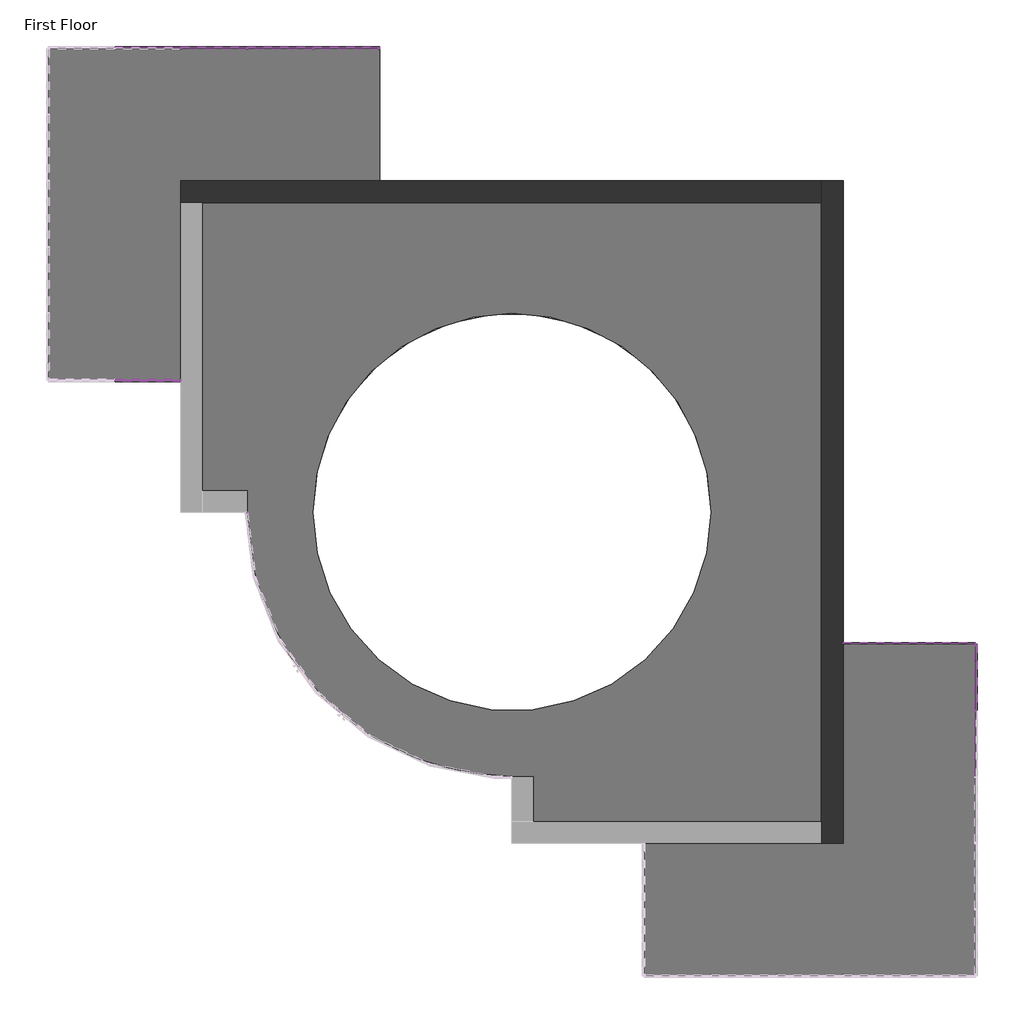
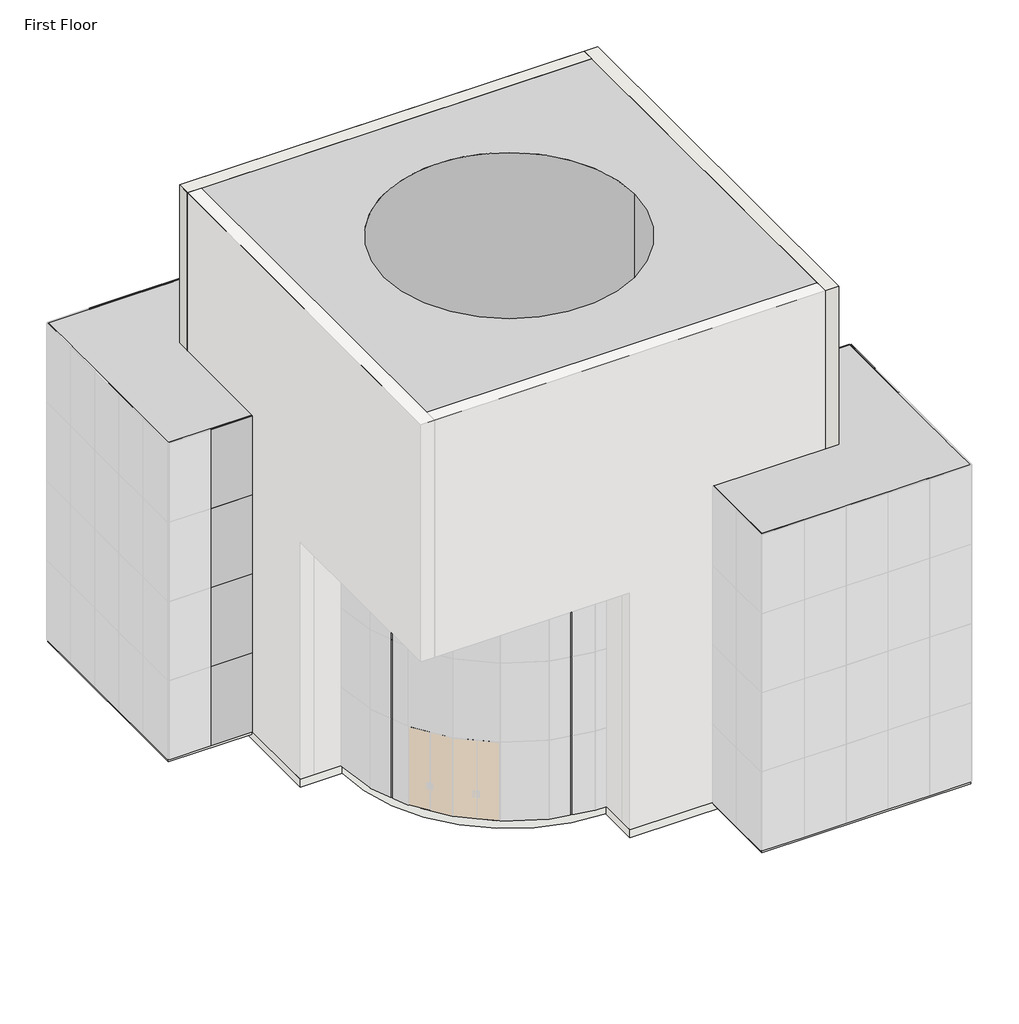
# One storey, part 4 of 4: 58 members, 32 plates, 2 proxies, 2 slabs, 2 walls.
"""IFC4 building model written with IfcOpenShell, lengths in millimetres."""

import ifcopenshell
import ifcopenshell.guid

model = None  # the IFC model being written
_history = None  # IfcOwnerHistory: only IFC2X3 demands one
_inside = {}  # id of a spatial element -> (the spatial element, [elements in it])
_under = {}  # id of a project, library or spatial element -> (it, [spatial elements below it])
_declared = {}  # id of a project -> (the project, [libraries it declares])
_typed = {}  # id of a type object -> (the type object, [elements of that type])
_made_of = {}  # id of a material, layer set ... -> (it, [elements and type objects made of it])


def new_model(schema):
    """Start an empty IFC model of exactly this schema.

    Asked for "IFC4X3", IfcOpenShell would pick the latest addendum, in which some entities
    have other attributes; the version numbers below select the first issue.
    IFC2X3 requires an IfcOwnerHistory on every rooted entity: one is made here for all.
    """
    global model, _history
    if schema == "IFC4X3":
        model = ifcopenshell.file(schema_version=(4, 3, 0, 0))
    else:
        model = ifcopenshell.file(schema=schema)
    _inside.clear()
    _under.clear()
    _declared.clear()
    _typed.clear()
    _made_of.clear()
    _history = None
    if model.schema == "IFC2X3":
        org = make("IfcOrganization", Name="unknown")
        user = make(
            "IfcPersonAndOrganization",
            ThePerson=make("IfcPerson", FamilyName="unknown"),
            TheOrganization=org,
        )
        app = make(
            "IfcApplication",
            ApplicationDeveloper=org,
            Version="unknown",
            ApplicationFullName="unknown",
            ApplicationIdentifier="unknown",
        )
        _history = make(
            "IfcOwnerHistory",
            OwningUser=user,
            OwningApplication=app,
            ChangeAction="ADDED",
            CreationDate=0,
        )
    return model


def make(cls, **values):
    """One entity of the class cls with the attributes given. An attribute that is None is left unset."""
    return model.create_entity(
        cls, **{name: value for name, value in values.items() if value is not None}
    )


def rooted(cls, **values):
    """An entity with a GlobalId (a new one), such as an element, a storey or a relation."""
    return make(cls, GlobalId=ifcopenshell.guid.new(), OwnerHistory=_history, **values)


def si_unit(unit_type, name, prefix=None):
    """IfcSIUnit, for example si_unit("LENGTHUNIT", "METRE", prefix="MILLI")."""
    return make("IfcSIUnit", UnitType=unit_type, Prefix=prefix, Name=name)


def assignment(units):
    """IfcUnitAssignment: the units of a project."""
    return None if units is None else make("IfcUnitAssignment", Units=units)


def point(xyz):
    """IfcCartesianPoint."""
    return None if xyz is None else make("IfcCartesianPoint", Coordinates=xyz)


def direction(xyz):
    """IfcDirection."""
    return None if xyz is None else make("IfcDirection", DirectionRatios=xyz)


def frame(location, z_axis=None, x_axis=None):
    """IfcAxis2Placement3D, a coordinate frame: its origin and axes. An axis left out is left unset."""
    return make(
        "IfcAxis2Placement3D",
        Location=point(location),
        Axis=direction(z_axis),
        RefDirection=direction(x_axis),
    )


def frame_2d(location, x_axis=None):
    """IfcAxis2Placement2D, a coordinate frame in the plane: its origin and x axis."""
    return make(
        "IfcAxis2Placement2D", Location=point(location), RefDirection=direction(x_axis)
    )


def origin():
    """The frame at (0, 0, 0) with its axes left unset."""
    return frame((0.0, 0.0, 0.0))


def origin_with_axes():
    """The frame at (0, 0, 0) with the z axis (0, 0, 1) and the x axis (1, 0, 0) written out."""
    return frame((0.0, 0.0, 0.0), z_axis=(0.0, 0.0, 1.0), x_axis=(1.0, 0.0, 0.0))


def place(relative_to, where):
    """IfcLocalPlacement: puts the frame where relative to a parent placement (None: the world)."""
    return make(
        "IfcLocalPlacement", PlacementRelTo=relative_to, RelativePlacement=where
    )


def context(
    kind, dimensions, precision=None, world=None, true_north=None, identifier=None
):
    """IfcGeometricRepresentationContext, for example the 3D "Model" context."""
    return make(
        "IfcGeometricRepresentationContext",
        ContextIdentifier=identifier,
        ContextType=kind,
        CoordinateSpaceDimension=dimensions,
        Precision=precision,
        WorldCoordinateSystem=world,
        TrueNorth=true_north,
    )


def project(units=None, contexts=None):
    """IfcProject with its units and contexts."""
    return rooted(
        "IfcProject",
        Name="project",
        RepresentationContexts=contexts,
        UnitsInContext=assignment(units),
    )


def spatial(cls, under=None, at=None, **own):
    """A site, building, storey or space (cls), placed at a placement, below another one or the project."""
    s = rooted(cls, ObjectPlacement=at, **own)
    if under is not None:
        _under.setdefault(under.id(), (under, []))[1].append(s)
    return s


def polyline(points):
    """IfcPolyline through the points."""
    return make("IfcPolyline", Points=[point(p) for p in points])


def circle_curve(where, radius):
    """IfcCircle in the frame where."""
    return make("IfcCircle", Position=where, Radius=radius)


def trimmed(basis, trim1, trim2, sense, master):
    """IfcTrimmedCurve: the piece of a basis curve between two trims."""
    return make(
        "IfcTrimmedCurve",
        BasisCurve=basis,
        Trim1=trim1,
        Trim2=trim2,
        SenseAgreement=sense,
        MasterRepresentation=master,
    )


def segment(curve, same_sense, transition):
    """IfcCompositeCurveSegment."""
    return make(
        "IfcCompositeCurveSegment",
        Transition=transition,
        SameSense=same_sense,
        ParentCurve=curve,
    )


def composite_curve(segments, self_intersect=None):
    """IfcCompositeCurve: segments joined end to end."""
    return make("IfcCompositeCurve", Segments=segments, SelfIntersect=self_intersect)


def outline(outer, holes=None, kind="AREA"):
    """IfcArbitraryClosedProfileDef: a profile drawn as a closed curve; with holes, ...WithVoids."""
    if holes is None:
        return make("IfcArbitraryClosedProfileDef", ProfileType=kind, OuterCurve=outer)
    return make(
        "IfcArbitraryProfileDefWithVoids",
        ProfileType=kind,
        OuterCurve=outer,
        InnerCurves=holes,
    )


def extrude(swept, where, along, depth):
    """IfcExtrudedAreaSolid: the profile swept, set in the frame where, extruded along a direction by depth."""
    return make(
        "IfcExtrudedAreaSolid",
        SweptArea=swept,
        Position=where,
        ExtrudedDirection=direction(along),
        Depth=depth,
    )


def faces_of(points, faces, orient=None, outer=None):
    """IfcFace entities. A face is a list of loops; a loop is a list of indices into points, from 0.

    orient and outer hold one flag for each loop. By default every Orientation is true, the
    first loop of a face is its IfcFaceOuterBound and the others are IfcFaceBound.
    """
    made = []
    for i, loops in enumerate(faces):
        bounds = []
        for j, loop in enumerate(loops):
            is_outer = j == 0 if outer is None else outer[i][j]
            bounds.append(
                make(
                    "IfcFaceOuterBound" if is_outer else "IfcFaceBound",
                    Bound=make("IfcPolyLoop", Polygon=[points[k] for k in loop]),
                    Orientation=True if orient is None else orient[i][j],
                )
            )
        made.append(make("IfcFace", Bounds=bounds))
    return made


def faceted_brep(points, faces, orient=None, outer=None, voids=None):
    """IfcFacetedBrep: a solid bounded by flat faces; with voids (closed shells), ...WithVoids."""
    shared = [point(p) for p in points]
    hull = make("IfcClosedShell", CfsFaces=faces_of(shared, faces, orient, outer))
    if voids is None:
        return make("IfcFacetedBrep", Outer=hull)
    return make(
        "IfcFacetedBrepWithVoids",
        Outer=hull,
        Voids=[
            make(cls, CfsFaces=faces_of(shared, fs, o, b)) for cls, fs, o, b in voids
        ],
    )


def shape(context_of_items, identifier, shape_type, items):
    """IfcShapeRepresentation: the items that make up one representation, for example the "Body"."""
    return make(
        "IfcShapeRepresentation",
        ContextOfItems=context_of_items,
        RepresentationIdentifier=identifier,
        RepresentationType=shape_type,
        Items=items,
    )


def source(mapping_origin, context_of_items, identifier, shape_type, items):
    """IfcRepresentationMap: a shape defined once, which mapped items show again and again."""
    return make(
        "IfcRepresentationMap",
        MappingOrigin=mapping_origin,
        MappedRepresentation=shape(context_of_items, identifier, shape_type, items),
    )


def transform(
    local_origin,
    x_axis=None,
    y_axis=None,
    z_axis=None,
    scale=None,
    scale2=None,
    scale3=None,
    uniform=True,
):
    """IfcCartesianTransformationOperator3D, or its non-uniform kind. x_axis, y_axis, z_axis: its Axis1, 2, 3."""
    if uniform:
        return make(
            "IfcCartesianTransformationOperator3D",
            Axis1=direction(x_axis),
            Axis2=direction(y_axis),
            LocalOrigin=point(local_origin),
            Scale=scale,
            Axis3=direction(z_axis),
        )
    return make(
        "IfcCartesianTransformationOperator3DnonUniform",
        Axis1=direction(x_axis),
        Axis2=direction(y_axis),
        LocalOrigin=point(local_origin),
        Scale=scale,
        Axis3=direction(z_axis),
        Scale2=scale2,
        Scale3=scale3,
    )


def mapped(mapping_source, mapping_target):
    """IfcMappedItem: shows the shape of a source again, moved by a transform."""
    return make(
        "IfcMappedItem", MappingSource=mapping_source, MappingTarget=mapping_target
    )


def made_of(thing, what):
    """Note that an element or type object is made of a material, layer set ...; save() writes the relation."""
    if what is not None:
        _made_of.setdefault(what.id(), (what, []))[1].append(thing)
    return thing


def element(
    cls,
    number,
    at=None,
    inside=None,
    cuts=None,
    type_object=None,
    material=None,
    context=None,
    identifier="Body",
    shape_type=None,
    held_by="IfcProductDefinitionShape",
    body=None,
    shapes=None,
    **own,
):
    """One element of the class cls, such as IfcWall. Its Tag is "e" and its number.

    at: its placement. inside: the storey or other place that contains it. cuts: it is an
    opening in that element (IfcRelVoidsElement). A single representation is given by context,
    identifier, shape_type and body (its items); several are given by shapes. held_by: the class
    of the entity that holds the representations. save() writes the other relations.
    """
    e = rooted(cls, Tag="e%d" % number, ObjectPlacement=at, **own)
    if body is not None:
        shapes = [shape(context, identifier, shape_type, body)]
    if shapes is not None:
        e.Representation = make(held_by, Representations=shapes)
    if inside is not None:
        _inside.setdefault(inside.id(), (inside, []))[1].append(e)
    if cuts is not None:
        rooted(
            "IfcRelVoidsElement", RelatingBuildingElement=cuts, RelatedOpeningElement=e
        )
    if type_object is not None:
        _typed.setdefault(type_object.id(), (type_object, []))[1].append(e)
    return made_of(e, material)


def aggregate(whole, parts):
    """IfcRelAggregates: a whole, such as a stair, and the parts it consists of."""
    return rooted("IfcRelAggregates", RelatingObject=whole, RelatedObjects=parts)


def save(model, path):
    """Write the relations noted so far, then the file.

    IfcRelAggregates (storeys below a building ...), IfcRelContainedInSpatialStructure (elements
    in a storey), IfcRelDefinesByType, IfcRelAssociatesMaterial and IfcRelDeclares: one each for
    every whole, place, type object, material and project.
    """
    for whole, parts in _under.values():
        aggregate(whole, parts)
    for where, things in _inside.values():
        rooted(
            "IfcRelContainedInSpatialStructure",
            RelatedElements=things,
            RelatingStructure=where,
        )
    for kind, things in _typed.values():
        rooted("IfcRelDefinesByType", RelatedObjects=things, RelatingType=kind)
    for what, things in _made_of.values():
        rooted("IfcRelAssociatesMaterial", RelatedObjects=things, RelatingMaterial=what)
    for by, libraries in _declared.values():
        rooted("IfcRelDeclares", RelatingContext=by, RelatedDefinitions=libraries)
    model.write(path)


def plane_surface(at):
    """IfcPlane: the flat surface through the origin of the frame at, square to its z axis."""
    return make("IfcPlane", Position=at)


def cylinder_surface(at, radius):
    """IfcCylindricalSurface: all points at the distance radius from the z axis of the frame at."""
    return make("IfcCylindricalSurface", Position=at, Radius=radius)


def revolved_surface(curve, axis_point, axis_direction):
    """IfcSurfaceOfRevolution: the curve turned about the line through axis_point along axis_direction."""
    return make(
        "IfcSurfaceOfRevolution",
        SweptCurve=make("IfcArbitraryOpenProfileDef", ProfileType="CURVE", Curve=curve),
        AxisPosition=make("IfcAxis1Placement", Location=point(axis_point), Axis=direction(axis_direction)),
    )


def advanced_brep(points, edges, surfaces, faces):
    """IfcAdvancedBrep: a solid bounded by faces that lie on surfaces and meet in shared edges.

    An edge is (start, end): straight between two places in points (the first is 0);
    or (start, end, curve); or (start, end, curve, False) where it runs against its curve.
    A face is (place in surfaces, loops), or (place, loops, False) where it looks against
    its surface's normal. A loop lists edges by number (the first is 1), with a minus sign
    where the edge is run from its end to its start. The first loop is the outer one.
    """
    corners = [point(p) for p in points]
    vertices = [make("IfcVertexPoint", VertexGeometry=c) for c in corners]
    made = []
    for start, end, *more in edges:
        made.append(
            make(
                "IfcEdgeCurve",
                EdgeStart=vertices[start],
                EdgeEnd=vertices[end],
                EdgeGeometry=more[0] if more else make("IfcPolyline", Points=[corners[start], corners[end]]),
                SameSense=more[1] if len(more) > 1 else True,
            )
        )
    hull = []
    for where, loops, *sense in faces:
        bounds = []
        for j, loop in enumerate(loops):
            ring = [make("IfcOrientedEdge", EdgeElement=made[abs(k) - 1], Orientation=k > 0) for k in loop]
            bounds.append(
                make(
                    "IfcFaceOuterBound" if j == 0 else "IfcFaceBound",
                    Bound=make("IfcEdgeLoop", EdgeList=ring),
                    Orientation=True,
                )
            )
        hull.append(make("IfcAdvancedFace", Bounds=bounds, FaceSurface=surfaces[where], SameSense=sense[0] if sense else True))
    return make("IfcAdvancedBrep", Outer=make("IfcClosedShell", CfsFaces=hull))


def member_74941792(model_context):
    return source(origin(), model_context, "Body", "SweptSolid", [
        extrude(outline(polyline([(0.0, 12.7), (0.0, -12.7), (-25.4, -12.7), (-25.4, 12.7), (0.0, 12.7)])), frame((0.0, 0.0, -1485.9), z_axis=(0.0, 0.0, 1.0), x_axis=(1.0, 0.0, 0.0)), (0.0, 0.0, 1.0), 1485.9),
    ])


def member_5e617a80(model_context):
    return source(origin(), model_context, "Body", "SweptSolid", [
        extrude(outline(polyline([(12.7, 12.7), (12.7, -12.7), (-12.7, -12.7), (-12.7, 12.7), (12.7, 12.7)])), frame((0.0, 0.0, -1485.9), z_axis=(0.0, 0.0, 1.0), x_axis=(1.0, 0.0, 0.0)), (0.0, 0.0, 1.0), 1485.9),
    ])


def member_9fd3d903(model_context):
    return source(origin(), model_context, "Body", "SweptSolid", [
        extrude(outline(polyline([(12.7, 12.7), (12.7, -12.7), (-12.7, -12.7), (-12.7, 12.7), (12.7, 12.7)])), frame((0.0, 0.0, -1498.6), z_axis=(0.0, 0.0, 1.0), x_axis=(1.0, 0.0, 0.0)), (0.0, 0.0, 1.0), 1498.6),
    ])


def member_cbdb9076(model_context):
    return source(origin(), model_context, "Body", "SweptSolid", [
        extrude(outline(polyline([(12.7, 12.7), (12.7, -12.7), (-12.7, -12.7), (-12.7, 12.7), (12.7, 12.7)])), frame((0.0, 0.0, -3048.0), z_axis=(0.0, 0.0, 1.0), x_axis=(1.0, 0.0, 0.0)), (0.0, 0.0, 1.0), 3048.0),
    ])


def member_6604d1e0(model_context):
    return source(origin(), model_context, "Body", "SweptSolid", [
        extrude(outline(polyline([(0.0, 12.7), (0.0, -12.7), (-25.4, -12.7), (-25.4, 12.7), (0.0, 12.7)])), frame((0.0, 0.0, -1498.6), z_axis=(0.0, 0.0, 1.0), x_axis=(1.0, 0.0, 0.0)), (0.0, 0.0, 1.0), 1498.6),
    ])


def member_7e523723(model_context):
    return source(origin(), model_context, "Body", "SweptSolid", [
        extrude(outline(polyline([(0.0, 12.7), (0.0, -12.7), (-25.4, -12.7), (-25.4, 12.7), (0.0, 12.7)])), frame((0.0, 0.0, -3048.0), z_axis=(0.0, 0.0, 1.0), x_axis=(1.0, 0.0, 0.0)), (0.0, 0.0, 1.0), 3048.0),
    ])


def system_panel_glazed_9c75bc08(model_context):
    return source(origin(), model_context, "Body", "SweptSolid", [
        extrude(outline(polyline([(762.0, -44.45), (-762.0, -44.45), (-762.0, -19.05), (762.0, -19.05), (762.0, -44.45)])), origin_with_axes(), (0.0, 0.0, 1.0), 3048.0),
    ])


model = new_model("IFC4")

# Units and contexts
model_context = context("Model", 3, world=origin())
ifc_project = project(units=[si_unit("LENGTHUNIT", "METRE", prefix="MILLI")], contexts=[model_context])

# Site, building, storey
site = spatial("IfcSite", under=ifc_project)
building = spatial("IfcBuilding", under=site)
storey = spatial("IfcBuildingStorey", under=building, Name="First Floor", Elevation=0.0)

# Proxies
placement = place(None, origin())
element("IfcBuildingElementProxy", 1, Name="Central Hall : Central Hall", ObjectType="Central Hall : Central Hall", at=placement, inside=storey, context=model_context, shape_type="AdvancedBrep", body=[
    advanced_brep(
    [(734.736716, 12739.1261432, 0.0), (-14505.263284, 12739.1261432, 0.0), (-14505.263284, 12739.1261432, 18288.0), (734.736716, 12739.1261432, 18288.0), (-14505.263284, 5119.1261432, 0.0), (-14505.263284, 5119.1261432, 9144.0), (-14505.263284, -2500.8738568, 9144.0), (-14505.263284, -2500.8738568, 18288.0), (734.736716, -2500.8738568, 0.0), (734.736716, -2500.8738568, 18288.0), (-6885.263284, -2500.8738568, 9144.0), (-6885.263284, -2500.8738568, 0.0), (-2313.263284, 5119.1261432, 18288.0), (-11457.263284, 5119.1261432, 18288.0), (-6885.263284, -976.8738568, 0.0), (-12981.263284, 5119.1261432, 0.0), (-11457.263284, 5119.1261432, 0.0), (-2313.263284, 5119.1261432, 0.0), (-6885.263284, -976.8738568, 9144.0), (-12981.263284, 5119.1261432, 9144.0)],
    [
        (0, 1),
        (1, 2),
        (2, 3),
        (3, 0),
        (1, 4),
        (4, 5),
        (5, 6),
        (6, 7),
        (7, 2),
        (8, 9),
        (9, 7),
        (6, 10),
        (10, 11),
        (11, 8),
        (3, 9),
        (8, 0),
        (12, 13, circle_curve(frame((-6885.263284, 5119.1261432, 18288.0), z_axis=(0.0, 0.0, -1.0), x_axis=(0.0, -1.0, 0.0)), 4572.0)),
        (13, 12, circle_curve(frame((-6885.263284, 5119.1261432, 18288.0), z_axis=(0.0, 0.0, -1.0), x_axis=(0.0, 1.0, 0.0)), 4572.0)),
        (11, 14),
        (14, 15, circle_curve(frame((-6885.263284, 5119.1261432, 0.0), z_axis=(0.0, 0.0, -1.0), x_axis=(-1.0, 0.0, 0.0)), 6096.0)),
        (15, 4),
        (16, 17, circle_curve(frame((-6885.263284, 5119.1261432, 0.0), z_axis=(0.0, 0.0, 1.0), x_axis=(0.0, -1.0, 0.0)), 4572.0)),
        (17, 16, circle_curve(frame((-6885.263284, 5119.1261432, 0.0), z_axis=(0.0, 0.0, 1.0), x_axis=(0.0, 1.0, 0.0)), 4572.0)),
        (16, 13),
        (12, 17),
        (14, 18),
        (18, 19, circle_curve(frame((-6885.263284, 5119.1261432, 9144.0), z_axis=(0.0, 0.0, -1.0), x_axis=(-1.0, 0.0, 0.0)), 6096.0)),
        (19, 15),
        (19, 5),
        (10, 18),
    ],
    [
        plane_surface(frame((-6885.263284, 12739.1261432, 0.0), z_axis=(0.0, 1.0, 0.0), x_axis=(-1.0, 0.0, 0.0))),
        plane_surface(frame((-14505.263284, 5119.1261432, 0.0), z_axis=(-1.0, 0.0, 0.0), x_axis=(0.0, -1.0, 0.0))),
        plane_surface(frame((-6885.263284, -2500.8738568, 0.0), z_axis=(0.0, -1.0, 0.0), x_axis=(1.0, 0.0, 0.0))),
        plane_surface(frame((734.736716, 5119.1261432, 0.0), z_axis=(1.0, 0.0, 0.0), x_axis=(0.0, 1.0, 0.0))),
        plane_surface(frame((-6885.263284, 5119.1261432, 18288.0), z_axis=(0.0, 0.0, 1.0), x_axis=(1.0, 0.0, 0.0))),
        plane_surface(frame((-6885.263284, 5119.1261432, 0.0), z_axis=(0.0, 0.0, -1.0), x_axis=(0.0, -1.0, 0.0))),
        revolved_surface(polyline([(-6885.263284, 547.1261432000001, 18288.0), (-6885.263284, 547.1261432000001, 0.0)]), (-6885.263284, 5119.1261432, 0.0), (0.0, 0.0, 1.0)),
        revolved_surface(polyline([(-6885.263284, 9691.1261432, 18288.0), (-6885.263284, 9691.1261432, 0.0)]), (-6885.263284, 5119.1261432, 0.0), (0.0, 0.0, 1.0)),
        cylinder_surface(frame((-6885.263284, 5119.1261432, 0.0), z_axis=(0.0, 0.0, 1.0), x_axis=(-1.0, 0.0, 0.0)), 6096.0),
        plane_surface(frame((-13743.263284, 5119.1261432, 0.0), z_axis=(0.0, -1.0, 0.0), x_axis=(-1.0, 0.0, 0.0))),
        plane_surface(frame((-6885.263284, -1738.8738568, 0.0), z_axis=(-1.0, 0.0, 0.0), x_axis=(0.0, 1.0, 0.0))),
        plane_surface(frame((-11152.463284, 851.9261432, 9144.0), z_axis=(0.0, 0.0, -1.0), x_axis=(-1.0, 0.0, 0.0))),
    ],
    [
        (0, [[1, 2, 3, 4]]),
        (1, [[-2, 5, 6, 7, 8, 9]]),
        (2, [[10, 11, -8, 12, 13, 14]]),
        (3, [[-4, 15, -10, 16]]),
        (4, [[-3, -9, -11, -15], [17, 18]]),
        (5, [[-1, -16, -14, 19, 20, 21, -5], [22, 23]]),
        (6, [[24, -17, 25, -22]]),
        (7, [[-24, -23, -25, -18]]),
        (8, [[26, 27, 28, -20]]),
        (9, [[-28, 29, -6, -21]]),
        (10, [[-26, -19, -13, 30]]),
        (11, [[-27, -30, -12, -7, -29]]),
    ],
),
])
element("IfcBuildingElementProxy", 2, Name="Wings : Wings", ObjectType="Wings : Wings", at=placement, inside=storey, context=model_context, shape_type="SweptSolid", body=[
    extrude(outline(polyline([(-9933.263284, 12739.1261432), (-14505.263284, 12739.1261432), (-14505.263284, 8167.1261432), (-17553.263284, 8167.1261432), (-17553.263284, 15787.1261432), (-9933.263284, 15787.1261432), (-9933.263284, 12739.1261432)])), origin_with_axes(), (0.0, 0.0, 1.0), 12192.0),
    extrude(outline(polyline([(734.736716, 2071.1261432), (3782.736716, 2071.1261432), (3782.736716, -5548.8738568), (-3837.263284, -5548.8738568), (-3837.263284, -2500.8738568), (734.736716, -2500.8738568), (734.736716, 2071.1261432)])), origin_with_axes(), (0.0, 0.0, 1.0), 12192.0),
])

# Members
member_shape = member_74941792(model_context)
element("IfcMember", 3, ObjectType="Rectangular Mullion : 1\" Square", at=placement, inside=storey, context=model_context, shape_type="MappedRepresentation", body=[
    mapped(member_shape, transform((3782.736716, 559.8261432, 0.0), x_axis=(0.0, 0.0, -1.0), y_axis=(1.0, 0.0, 0.0), z_axis=(0.0, -1.0, 0.0))),
])
element("IfcMember", 4, ObjectType="Rectangular Mullion : 1\" Square", at=placement, inside=storey, context=model_context, shape_type="MappedRepresentation", body=[
    mapped(member_shape, transform((-9958.663284, 15787.1261432, 0.0), x_axis=(0.0, 0.0, -1.0), y_axis=(0.0, 1.0, 0.0), z_axis=(1.0, 0.0, 0.0))),
])
member_2_shape = member_5e617a80(model_context)
element("IfcMember", 5, ObjectType="Rectangular Mullion : 1\" Square", at=placement, inside=storey, context=model_context, shape_type="MappedRepresentation", body=[
    mapped(member_2_shape, transform((-14530.663284, 8167.1261432, 3048.0), x_axis=(0.0, 0.0, 1.0), y_axis=(0.0, -1.0, 0.0), z_axis=(1.0, 0.0, 0.0))),
])
element("IfcMember", 6, ObjectType="Rectangular Mullion : 1\" Square", at=placement, inside=storey, context=model_context, shape_type="MappedRepresentation", body=[
    mapped(member_2_shape, transform((-14530.663284, 8167.1261432, 6096.0), x_axis=(0.0, 0.0, 1.0), y_axis=(0.0, -1.0, 0.0), z_axis=(1.0, 0.0, 0.0))),
])
element("IfcMember", 7, ObjectType="Rectangular Mullion : 1\" Square", at=placement, inside=storey, context=model_context, shape_type="MappedRepresentation", body=[
    mapped(member_2_shape, transform((-14530.663284, 8167.1261432, 9144.0), x_axis=(0.0, 0.0, 1.0), y_axis=(0.0, -1.0, 0.0), z_axis=(1.0, 0.0, 0.0))),
])
element("IfcMember", 8, ObjectType="Rectangular Mullion : 1\" Square", at=placement, inside=storey, context=model_context, shape_type="MappedRepresentation", body=[
    mapped(member_2_shape, transform((3782.736716, 2045.7261432, 3048.0), x_axis=(0.0, 0.0, 1.0), y_axis=(1.0, 0.0, 0.0), z_axis=(0.0, 1.0, 0.0))),
])
element("IfcMember", 9, ObjectType="Rectangular Mullion : 1\" Square", at=placement, inside=storey, context=model_context, shape_type="MappedRepresentation", body=[
    mapped(member_2_shape, transform((3782.736716, 2045.7261432, 6096.0), x_axis=(0.0, 0.0, 1.0), y_axis=(1.0, 0.0, 0.0), z_axis=(0.0, 1.0, 0.0))),
])
element("IfcMember", 10, ObjectType="Rectangular Mullion : 1\" Square", at=placement, inside=storey, context=model_context, shape_type="MappedRepresentation", body=[
    mapped(member_2_shape, transform((3782.736716, 2045.7261432, 9144.0), x_axis=(0.0, 0.0, 1.0), y_axis=(1.0, 0.0, 0.0), z_axis=(0.0, 1.0, 0.0))),
])
element("IfcMember", 11, ObjectType="Rectangular Mullion : 1\" Square", at=placement, inside=storey, context=model_context, shape_type="MappedRepresentation", body=[
    mapped(member_2_shape, transform((-11444.563284, 15787.1261432, 6096.0), x_axis=(0.0, 0.0, 1.0), y_axis=(0.0, 1.0, 0.0), z_axis=(-1.0, 0.0, 0.0))),
])
element("IfcMember", 12, ObjectType="Rectangular Mullion : 1\" Square", at=placement, inside=storey, context=model_context, shape_type="MappedRepresentation", body=[
    mapped(member_2_shape, transform((-11444.563284, 15787.1261432, 9144.0), x_axis=(0.0, 0.0, 1.0), y_axis=(0.0, 1.0, 0.0), z_axis=(-1.0, 0.0, 0.0))),
])
element("IfcMember", 13, ObjectType="Rectangular Mullion : 1\" Square", at=placement, inside=storey, context=model_context, shape_type="MappedRepresentation", body=[
    mapped(member_2_shape, transform((-11444.563284, 15787.1261432, 3048.0), x_axis=(0.0, 0.0, 1.0), y_axis=(0.0, 1.0, 0.0), z_axis=(-1.0, 0.0, 0.0))),
])
member_3_shape = member_9fd3d903(model_context)
element("IfcMember", 14, ObjectType="Rectangular Mullion : 1\" Square", at=placement, inside=storey, context=model_context, shape_type="MappedRepresentation", body=[
    mapped(member_3_shape, transform((3782.736716, 534.4261432, 3048.0), x_axis=(0.0, 0.0, 1.0), y_axis=(1.0, 0.0, 0.0), z_axis=(0.0, 1.0, 0.0))),
])
element("IfcMember", 15, ObjectType="Rectangular Mullion : 1\" Square", at=placement, inside=storey, context=model_context, shape_type="MappedRepresentation", body=[
    mapped(member_3_shape, transform((3782.736716, 534.4261432, 6096.0), x_axis=(0.0, 0.0, 1.0), y_axis=(1.0, 0.0, 0.0), z_axis=(0.0, 1.0, 0.0))),
])
element("IfcMember", 16, ObjectType="Rectangular Mullion : 1\" Square", at=placement, inside=storey, context=model_context, shape_type="MappedRepresentation", body=[
    mapped(member_3_shape, transform((3782.736716, 534.4261432, 9144.0), x_axis=(0.0, 0.0, 1.0), y_axis=(1.0, 0.0, 0.0), z_axis=(0.0, 1.0, 0.0))),
])
element("IfcMember", 17, ObjectType="Rectangular Mullion : 1\" Square", at=placement, inside=storey, context=model_context, shape_type="MappedRepresentation", body=[
    mapped(member_3_shape, transform((-12968.563284, 15787.1261432, 6096.0), x_axis=(0.0, 0.0, 1.0), y_axis=(0.0, 1.0, 0.0), z_axis=(-1.0, 0.0, 0.0))),
])
element("IfcMember", 18, ObjectType="Rectangular Mullion : 1\" Square", at=placement, inside=storey, context=model_context, shape_type="MappedRepresentation", body=[
    mapped(member_3_shape, transform((-14492.563284, 15787.1261432, 6096.0), x_axis=(0.0, 0.0, 1.0), y_axis=(0.0, 1.0, 0.0), z_axis=(-1.0, 0.0, 0.0))),
])
element("IfcMember", 19, ObjectType="Rectangular Mullion : 1\" Square", at=placement, inside=storey, context=model_context, shape_type="MappedRepresentation", body=[
    mapped(member_3_shape, transform((-12968.563284, 15787.1261432, 9144.0), x_axis=(0.0, 0.0, 1.0), y_axis=(0.0, 1.0, 0.0), z_axis=(-1.0, 0.0, 0.0))),
])
element("IfcMember", 20, ObjectType="Rectangular Mullion : 1\" Square", at=placement, inside=storey, context=model_context, shape_type="MappedRepresentation", body=[
    mapped(member_3_shape, transform((-14492.563284, 15787.1261432, 9144.0), x_axis=(0.0, 0.0, 1.0), y_axis=(0.0, 1.0, 0.0), z_axis=(-1.0, 0.0, 0.0))),
])
element("IfcMember", 21, ObjectType="Rectangular Mullion : 1\" Square", at=placement, inside=storey, context=model_context, shape_type="MappedRepresentation", body=[
    mapped(member_3_shape, transform((-12968.563284, 15787.1261432, 3048.0), x_axis=(0.0, 0.0, 1.0), y_axis=(0.0, 1.0, 0.0), z_axis=(-1.0, 0.0, 0.0))),
])
element("IfcMember", 22, ObjectType="Rectangular Mullion : 1\" Square", at=placement, inside=storey, context=model_context, shape_type="MappedRepresentation", body=[
    mapped(member_3_shape, transform((-14492.563284, 15787.1261432, 3048.0), x_axis=(0.0, 0.0, 1.0), y_axis=(0.0, 1.0, 0.0), z_axis=(-1.0, 0.0, 0.0))),
])
member_4_shape = member_cbdb9076(model_context)
element("IfcMember", 23, ObjectType="Rectangular Mullion : 1\" Square", at=placement, inside=storey, context=model_context, shape_type="MappedRepresentation", body=[
    mapped(member_4_shape, transform((3782.736716, 547.1261432, 0.0), x_axis=(0.0, 1.0, 0.0), y_axis=(1.0, 0.0, 0.0), z_axis=(0.0, 0.0, -1.0))),
])
element("IfcMember", 24, ObjectType="Rectangular Mullion : 1\" Square", at=placement, inside=storey, context=model_context, shape_type="MappedRepresentation", body=[
    mapped(member_4_shape, transform((-11457.263284, 15787.1261432, 0.0), x_axis=(-1.0, 0.0, 0.0), y_axis=(0.0, 1.0, 0.0), z_axis=(0.0, 0.0, -1.0))),
])
element("IfcMember", 25, ObjectType="Rectangular Mullion : 1\" Square", at=placement, inside=storey, context=model_context, shape_type="MappedRepresentation", body=[
    mapped(member_4_shape, transform((-12981.263284, 15787.1261432, 0.0), x_axis=(-1.0, 0.0, 0.0), y_axis=(0.0, 1.0, 0.0), z_axis=(0.0, 0.0, -1.0))),
])
element("IfcMember", 26, ObjectType="Rectangular Mullion : 1\" Square", at=placement, inside=storey, context=model_context, shape_type="MappedRepresentation", body=[
    mapped(member_4_shape, transform((-14505.263284, 15787.1261432, 0.0), x_axis=(-1.0, 0.0, 0.0), y_axis=(0.0, 1.0, 0.0), z_axis=(0.0, 0.0, -1.0))),
])
member_5_shape = member_6604d1e0(model_context)
element("IfcMember", 27, ObjectType="Rectangular Mullion : 1\" Square", at=placement, inside=storey, context=model_context, shape_type="MappedRepresentation", body=[
    mapped(member_5_shape, transform((3782.736716, 534.4261432, 12192.0), x_axis=(0.0, 0.0, 1.0), y_axis=(1.0, 0.0, 0.0), z_axis=(0.0, 1.0, 0.0))),
])
element("IfcMember", 28, ObjectType="Rectangular Mullion : 1\" Square", at=placement, inside=storey, context=model_context, shape_type="MappedRepresentation", body=[
    mapped(member_5_shape, transform((-12968.563284, 15787.1261432, 12192.0), x_axis=(0.0, 0.0, 1.0), y_axis=(0.0, 1.0, 0.0), z_axis=(-1.0, 0.0, 0.0))),
])
element("IfcMember", 29, ObjectType="Rectangular Mullion : 1\" Square", at=placement, inside=storey, context=model_context, shape_type="MappedRepresentation", body=[
    mapped(member_5_shape, transform((-14492.563284, 15787.1261432, 12192.0), x_axis=(0.0, 0.0, 1.0), y_axis=(0.0, 1.0, 0.0), z_axis=(-1.0, 0.0, 0.0))),
])
element("IfcMember", 30, ObjectType="Rectangular Mullion : 1\" Square", at=placement, inside=storey, context=model_context, shape_type="MappedRepresentation", body=[
    mapped(member_4_shape, transform((3782.736716, 547.1261432, 3048.0), x_axis=(0.0, 1.0, 0.0), y_axis=(1.0, 0.0, 0.0), z_axis=(0.0, 0.0, -1.0))),
])
element("IfcMember", 31, ObjectType="Rectangular Mullion : 1\" Square", at=placement, inside=storey, context=model_context, shape_type="MappedRepresentation", body=[
    mapped(member_4_shape, transform((3782.736716, 547.1261432, 6096.0), x_axis=(0.0, 1.0, 0.0), y_axis=(1.0, 0.0, 0.0), z_axis=(0.0, 0.0, -1.0))),
])
element("IfcMember", 32, ObjectType="Rectangular Mullion : 1\" Square", at=placement, inside=storey, context=model_context, shape_type="MappedRepresentation", body=[
    mapped(member_4_shape, transform((-14505.263284, 15787.1261432, 3048.0), x_axis=(-1.0, 0.0, 0.0), y_axis=(0.0, 1.0, 0.0), z_axis=(0.0, 0.0, -1.0))),
])
element("IfcMember", 33, ObjectType="Rectangular Mullion : 1\" Square", at=placement, inside=storey, context=model_context, shape_type="MappedRepresentation", body=[
    mapped(member_4_shape, transform((-14505.263284, 15787.1261432, 6096.0), x_axis=(-1.0, 0.0, 0.0), y_axis=(0.0, 1.0, 0.0), z_axis=(0.0, 0.0, -1.0))),
])
element("IfcMember", 34, ObjectType="Rectangular Mullion : 1\" Square", at=placement, inside=storey, context=model_context, shape_type="MappedRepresentation", body=[
    mapped(member_4_shape, transform((-11457.263284, 15787.1261432, 3048.0), x_axis=(-1.0, 0.0, 0.0), y_axis=(0.0, 1.0, 0.0), z_axis=(0.0, 0.0, -1.0))),
])
element("IfcMember", 35, ObjectType="Rectangular Mullion : 1\" Square", at=placement, inside=storey, context=model_context, shape_type="MappedRepresentation", body=[
    mapped(member_4_shape, transform((-11457.263284, 15787.1261432, 6096.0), x_axis=(-1.0, 0.0, 0.0), y_axis=(0.0, 1.0, 0.0), z_axis=(0.0, 0.0, -1.0))),
])
element("IfcMember", 36, ObjectType="Rectangular Mullion : 1\" Square", at=placement, inside=storey, context=model_context, shape_type="MappedRepresentation", body=[
    mapped(member_4_shape, transform((-12981.263284, 15787.1261432, 3048.0), x_axis=(-1.0, 0.0, 0.0), y_axis=(0.0, 1.0, 0.0), z_axis=(0.0, 0.0, -1.0))),
])
element("IfcMember", 37, ObjectType="Rectangular Mullion : 1\" Square", at=placement, inside=storey, context=model_context, shape_type="MappedRepresentation", body=[
    mapped(member_4_shape, transform((-12981.263284, 15787.1261432, 6096.0), x_axis=(-1.0, 0.0, 0.0), y_axis=(0.0, 1.0, 0.0), z_axis=(0.0, 0.0, -1.0))),
])
element("IfcMember", 38, ObjectType="Rectangular Mullion : 1\" Square", at=placement, inside=storey, context=model_context, shape_type="MappedRepresentation", body=[
    mapped(member_4_shape, transform((3782.736716, 547.1261432, 9144.0), x_axis=(0.0, 1.0, 0.0), y_axis=(1.0, 0.0, 0.0), z_axis=(0.0, 0.0, -1.0))),
])
element("IfcMember", 39, ObjectType="Rectangular Mullion : 1\" Square", at=placement, inside=storey, context=model_context, shape_type="MappedRepresentation", body=[
    mapped(member_4_shape, transform((-12981.263284, 15787.1261432, 9144.0), x_axis=(-1.0, 0.0, 0.0), y_axis=(0.0, 1.0, 0.0), z_axis=(0.0, 0.0, -1.0))),
])
element("IfcMember", 40, ObjectType="Rectangular Mullion : 1\" Square", at=placement, inside=storey, context=model_context, shape_type="MappedRepresentation", body=[
    mapped(member_4_shape, transform((-14505.263284, 15787.1261432, 9144.0), x_axis=(-1.0, 0.0, 0.0), y_axis=(0.0, 1.0, 0.0), z_axis=(0.0, 0.0, -1.0))),
])
element("IfcMember", 41, ObjectType="Rectangular Mullion : 1\" Square", at=placement, inside=storey, context=model_context, shape_type="MappedRepresentation", body=[
    mapped(member_4_shape, transform((-11457.263284, 15787.1261432, 9144.0), x_axis=(-1.0, 0.0, 0.0), y_axis=(0.0, 1.0, 0.0), z_axis=(0.0, 0.0, -1.0))),
])
element("IfcMember", 42, ObjectType="Rectangular Mullion : 1\" Square", at=placement, inside=storey, context=model_context, shape_type="MappedRepresentation", body=[
    mapped(member_5_shape, transform((-11469.963284, 15787.1261432, 0.0), x_axis=(0.0, 0.0, -1.0), y_axis=(0.0, 1.0, 0.0), z_axis=(1.0, 0.0, 0.0))),
])
element("IfcMember", 43, ObjectType="Rectangular Mullion : 1\" Square", at=placement, inside=storey, context=model_context, shape_type="MappedRepresentation", body=[
    mapped(member_5_shape, transform((-12993.963284, 15787.1261432, 0.0), x_axis=(0.0, 0.0, -1.0), y_axis=(0.0, 1.0, 0.0), z_axis=(1.0, 0.0, 0.0))),
])
element("IfcMember", 44, ObjectType="Rectangular Mullion : 1\" Square", at=placement, inside=storey, context=model_context, shape_type="MappedRepresentation", body=[
    mapped(member_5_shape, transform((-14517.963284, 15787.1261432, 0.0), x_axis=(0.0, 0.0, -1.0), y_axis=(0.0, 1.0, 0.0), z_axis=(1.0, 0.0, 0.0))),
])
element("IfcMember", 45, ObjectType="Rectangular Mullion : 1\" Square", at=placement, inside=storey, context=model_context, shape_type="MappedRepresentation", body=[
    mapped(member_shape, transform((-14530.663284, 8167.1261432, 12192.0), x_axis=(0.0, 0.0, 1.0), y_axis=(0.0, -1.0, 0.0), z_axis=(1.0, 0.0, 0.0))),
])
element("IfcMember", 46, ObjectType="Rectangular Mullion : 1\" Square", at=placement, inside=storey, context=model_context, shape_type="MappedRepresentation", body=[
    mapped(member_shape, transform((3782.736716, 2045.7261432, 12192.0), x_axis=(0.0, 0.0, 1.0), y_axis=(1.0, 0.0, 0.0), z_axis=(0.0, 1.0, 0.0))),
])
element("IfcMember", 47, ObjectType="Rectangular Mullion : 1\" Square", at=placement, inside=storey, context=model_context, shape_type="MappedRepresentation", body=[
    mapped(member_shape, transform((-11444.563284, 15787.1261432, 12192.0), x_axis=(0.0, 0.0, 1.0), y_axis=(0.0, 1.0, 0.0), z_axis=(-1.0, 0.0, 0.0))),
])
member_6_shape = member_7e523723(model_context)
element("IfcMember", 48, ObjectType="Rectangular Mullion : 1\" Square", at=placement, inside=storey, context=model_context, shape_type="MappedRepresentation", body=[
    mapped(member_6_shape, transform((-14505.263284, 8167.1261432, 0.0), x_axis=(1.0, 0.0, 0.0), y_axis=(0.0, -1.0, 0.0), z_axis=(0.0, 0.0, -1.0))),
])
element("IfcMember", 49, ObjectType="Rectangular Mullion : 1\" Square", at=placement, inside=storey, context=model_context, shape_type="MappedRepresentation", body=[
    mapped(member_6_shape, transform((3782.736716, 2071.1261432, 0.0), x_axis=(0.0, 1.0, 0.0), y_axis=(1.0, 0.0, 0.0), z_axis=(0.0, 0.0, -1.0))),
])
element("IfcMember", 50, ObjectType="Rectangular Mullion : 1\" Square", at=placement, inside=storey, context=model_context, shape_type="MappedRepresentation", body=[
    mapped(member_6_shape, transform((-9933.263284, 15787.1261432, 3048.0), x_axis=(1.0, 0.0, 0.0), y_axis=(0.0, 1.0, 0.0), z_axis=(0.0, 0.0, 1.0))),
])
element("IfcMember", 51, ObjectType="Rectangular Mullion : 1\" Square", at=placement, inside=storey, context=model_context, shape_type="MappedRepresentation", body=[
    mapped(member_6_shape, transform((-9933.263284, 15787.1261432, 6096.0), x_axis=(1.0, 0.0, 0.0), y_axis=(0.0, 1.0, 0.0), z_axis=(0.0, 0.0, 1.0))),
])
element("IfcMember", 52, ObjectType="Rectangular Mullion : 1\" Square", at=placement, inside=storey, context=model_context, shape_type="MappedRepresentation", body=[
    mapped(member_6_shape, transform((-9933.263284, 15787.1261432, 9144.0), x_axis=(1.0, 0.0, 0.0), y_axis=(0.0, 1.0, 0.0), z_axis=(0.0, 0.0, 1.0))),
])
element("IfcMember", 53, ObjectType="Rectangular Mullion : 1\" Square", at=placement, inside=storey, context=model_context, shape_type="MappedRepresentation", body=[
    mapped(member_6_shape, transform((-14505.263284, 8167.1261432, 6096.0), x_axis=(1.0, 0.0, 0.0), y_axis=(0.0, -1.0, 0.0), z_axis=(0.0, 0.0, -1.0))),
])
element("IfcMember", 54, ObjectType="Rectangular Mullion : 1\" Square", at=placement, inside=storey, context=model_context, shape_type="MappedRepresentation", body=[
    mapped(member_6_shape, transform((-14505.263284, 8167.1261432, 3048.0), x_axis=(1.0, 0.0, 0.0), y_axis=(0.0, -1.0, 0.0), z_axis=(0.0, 0.0, -1.0))),
])
element("IfcMember", 55, ObjectType="Rectangular Mullion : 1\" Square", at=placement, inside=storey, context=model_context, shape_type="MappedRepresentation", body=[
    mapped(member_6_shape, transform((3782.736716, 2071.1261432, 3048.0), x_axis=(0.0, 1.0, 0.0), y_axis=(1.0, 0.0, 0.0), z_axis=(0.0, 0.0, -1.0))),
])
element("IfcMember", 56, ObjectType="Rectangular Mullion : 1\" Square", at=placement, inside=storey, context=model_context, shape_type="MappedRepresentation", body=[
    mapped(member_6_shape, transform((3782.736716, 2071.1261432, 6096.0), x_axis=(0.0, 1.0, 0.0), y_axis=(1.0, 0.0, 0.0), z_axis=(0.0, 0.0, -1.0))),
])
element("IfcMember", 57, ObjectType="Rectangular Mullion : 1\" Square", at=placement, inside=storey, context=model_context, shape_type="MappedRepresentation", body=[
    mapped(member_6_shape, transform((-14505.263284, 8167.1261432, 9144.0), x_axis=(1.0, 0.0, 0.0), y_axis=(0.0, -1.0, 0.0), z_axis=(0.0, 0.0, -1.0))),
])
element("IfcMember", 58, ObjectType="Rectangular Mullion : 1\" Square", at=placement, inside=storey, context=model_context, shape_type="MappedRepresentation", body=[
    mapped(member_6_shape, transform((3782.736716, 2071.1261432, 9144.0), x_axis=(0.0, 1.0, 0.0), y_axis=(1.0, 0.0, 0.0), z_axis=(0.0, 0.0, -1.0))),
])
element("IfcMember", 59, ObjectType="Rectangular Mullion : 1\" Square", at=placement, inside=storey, context=model_context, shape_type="MappedRepresentation", body=[
    mapped(member_6_shape, transform((-12981.263284, 5119.1261432, 9144.0), x_axis=(-0.12500000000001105, 0.9921567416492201, 0.0), y_axis=(-0.9921567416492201, -0.12500000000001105, 0.0), z_axis=(0.0, 0.0, 1.0))),
])
element("IfcMember", 60, ObjectType="Rectangular Mullion : 1\" Square", at=placement, inside=storey, context=model_context, shape_type="MappedRepresentation", body=[
    mapped(member_6_shape, transform((-9933.263284, 15787.1261432, 12192.0), x_axis=(1.0, 0.0, 0.0), y_axis=(0.0, 1.0, 0.0), z_axis=(0.0, 0.0, 1.0))),
])

# Plates
system_panel_glazed_shape = system_panel_glazed_9c75bc08(model_context)
element("IfcPlate", 61, ObjectType="System Panel : Glazed", at=placement, inside=storey, context=model_context, shape_type="MappedRepresentation", body=[
    mapped(system_panel_glazed_shape, transform((-15267.263284, 8167.1261432, 0.0), x_axis=(1.0, 0.0, 0.0), y_axis=(0.0, 1.0, 0.0), z_axis=(0.0, 0.0, 1.0))),
])
element("IfcPlate", 62, ObjectType="System Panel : Glazed", at=placement, inside=storey, context=model_context, shape_type="MappedRepresentation", body=[
    mapped(system_panel_glazed_shape, transform((-15267.263284, 8167.1261432, 3048.0), x_axis=(1.0, 0.0, 0.0), y_axis=(0.0, 1.0, 0.0), z_axis=(0.0, 0.0, 1.0))),
])
element("IfcPlate", 63, ObjectType="System Panel : Glazed", at=placement, inside=storey, context=model_context, shape_type="MappedRepresentation", body=[
    mapped(system_panel_glazed_shape, transform((-15267.263284, 8167.1261432, 6096.0), x_axis=(1.0, 0.0, 0.0), y_axis=(0.0, 1.0, 0.0), z_axis=(0.0, 0.0, 1.0))),
])
element("IfcPlate", 64, ObjectType="System Panel : Glazed", at=placement, inside=storey, context=model_context, shape_type="MappedRepresentation", body=[
    mapped(system_panel_glazed_shape, transform((-15267.263284, 8167.1261432, 9144.0), x_axis=(1.0, 0.0, 0.0), y_axis=(0.0, 1.0, 0.0), z_axis=(0.0, 0.0, 1.0))),
])
element("IfcPlate", 65, ObjectType="System Panel : Glazed", at=placement, inside=storey, context=model_context, shape_type="MappedRepresentation", body=[
    mapped(system_panel_glazed_shape, transform((3782.736716, 1309.1261432, 0.0), x_axis=(0.0, 1.0, 0.0), y_axis=(-1.0, 0.0, 0.0), z_axis=(0.0, 0.0, 1.0))),
])
element("IfcPlate", 66, ObjectType="System Panel : Glazed", at=placement, inside=storey, context=model_context, shape_type="MappedRepresentation", body=[
    mapped(system_panel_glazed_shape, transform((3782.736716, 1309.1261432, 3048.0), x_axis=(0.0, 1.0, 0.0), y_axis=(-1.0, 0.0, 0.0), z_axis=(0.0, 0.0, 1.0))),
])
element("IfcPlate", 67, ObjectType="System Panel : Glazed", at=placement, inside=storey, context=model_context, shape_type="MappedRepresentation", body=[
    mapped(system_panel_glazed_shape, transform((3782.736716, 1309.1261432, 6096.0), x_axis=(0.0, 1.0, 0.0), y_axis=(-1.0, 0.0, 0.0), z_axis=(0.0, 0.0, 1.0))),
])
element("IfcPlate", 68, ObjectType="System Panel : Glazed", at=placement, inside=storey, context=model_context, shape_type="MappedRepresentation", body=[
    mapped(system_panel_glazed_shape, transform((3782.736716, 1309.1261432, 9144.0), x_axis=(0.0, 1.0, 0.0), y_axis=(-1.0, 0.0, 0.0), z_axis=(0.0, 0.0, 1.0))),
])
element("IfcPlate", 69, ObjectType="System Panel : Glazed", at=placement, inside=storey, context=model_context, shape_type="MappedRepresentation", body=[
    mapped(system_panel_glazed_shape, transform((-10695.263284, 15787.1261432, 0.0), x_axis=(-1.0, 0.0, 0.0), y_axis=(0.0, -1.0, 0.0), z_axis=(0.0, 0.0, 1.0))),
])
element("IfcPlate", 70, ObjectType="System Panel : Glazed", at=placement, inside=storey, context=model_context, shape_type="MappedRepresentation", body=[
    mapped(system_panel_glazed_shape, transform((-12219.263284, 15787.1261432, 0.0), x_axis=(-1.0, 0.0, 0.0), y_axis=(0.0, -1.0, 0.0), z_axis=(0.0, 0.0, 1.0))),
])
element("IfcPlate", 71, ObjectType="System Panel : Glazed", at=placement, inside=storey, context=model_context, shape_type="MappedRepresentation", body=[
    mapped(system_panel_glazed_shape, transform((-13743.263284, 15787.1261432, 0.0), x_axis=(-1.0, 0.0, 0.0), y_axis=(0.0, -1.0, 0.0), z_axis=(0.0, 0.0, 1.0))),
])
element("IfcPlate", 72, ObjectType="System Panel : Glazed", at=placement, inside=storey, context=model_context, shape_type="MappedRepresentation", body=[
    mapped(system_panel_glazed_shape, transform((-15267.263284, 15787.1261432, 0.0), x_axis=(-1.0, 0.0, 0.0), y_axis=(0.0, -1.0, 0.0), z_axis=(0.0, 0.0, 1.0))),
])
element("IfcPlate", 73, ObjectType="System Panel : Glazed", at=placement, inside=storey, context=model_context, shape_type="MappedRepresentation", body=[
    mapped(system_panel_glazed_shape, transform((-10695.263284, 15787.1261432, 3048.0), x_axis=(-1.0, 0.0, 0.0), y_axis=(0.0, -1.0, 0.0), z_axis=(0.0, 0.0, 1.0))),
])
element("IfcPlate", 74, ObjectType="System Panel : Glazed", at=placement, inside=storey, context=model_context, shape_type="MappedRepresentation", body=[
    mapped(system_panel_glazed_shape, transform((-12219.263284, 15787.1261432, 3048.0), x_axis=(-1.0, 0.0, 0.0), y_axis=(0.0, -1.0, 0.0), z_axis=(0.0, 0.0, 1.0))),
])
element("IfcPlate", 75, ObjectType="System Panel : Glazed", at=placement, inside=storey, context=model_context, shape_type="MappedRepresentation", body=[
    mapped(system_panel_glazed_shape, transform((-13743.263284, 15787.1261432, 3048.0), x_axis=(-1.0, 0.0, 0.0), y_axis=(0.0, -1.0, 0.0), z_axis=(0.0, 0.0, 1.0))),
])
element("IfcPlate", 76, ObjectType="System Panel : Glazed", at=placement, inside=storey, context=model_context, shape_type="MappedRepresentation", body=[
    mapped(system_panel_glazed_shape, transform((-15267.263284, 15787.1261432, 3048.0), x_axis=(-1.0, 0.0, 0.0), y_axis=(0.0, -1.0, 0.0), z_axis=(0.0, 0.0, 1.0))),
])
element("IfcPlate", 77, ObjectType="System Panel : Glazed", at=placement, inside=storey, context=model_context, shape_type="MappedRepresentation", body=[
    mapped(system_panel_glazed_shape, transform((-10695.263284, 15787.1261432, 6096.0), x_axis=(-1.0, 0.0, 0.0), y_axis=(0.0, -1.0, 0.0), z_axis=(0.0, 0.0, 1.0))),
])
element("IfcPlate", 78, ObjectType="System Panel : Glazed", at=placement, inside=storey, context=model_context, shape_type="MappedRepresentation", body=[
    mapped(system_panel_glazed_shape, transform((-12219.263284, 15787.1261432, 6096.0), x_axis=(-1.0, 0.0, 0.0), y_axis=(0.0, -1.0, 0.0), z_axis=(0.0, 0.0, 1.0))),
])
element("IfcPlate", 79, ObjectType="System Panel : Glazed", at=placement, inside=storey, context=model_context, shape_type="MappedRepresentation", body=[
    mapped(system_panel_glazed_shape, transform((-13743.263284, 15787.1261432, 6096.0), x_axis=(-1.0, 0.0, 0.0), y_axis=(0.0, -1.0, 0.0), z_axis=(0.0, 0.0, 1.0))),
])
element("IfcPlate", 80, ObjectType="System Panel : Glazed", at=placement, inside=storey, context=model_context, shape_type="MappedRepresentation", body=[
    mapped(system_panel_glazed_shape, transform((-15267.263284, 15787.1261432, 6096.0), x_axis=(-1.0, 0.0, 0.0), y_axis=(0.0, -1.0, 0.0), z_axis=(0.0, 0.0, 1.0))),
])
element("IfcPlate", 81, ObjectType="System Panel : Glazed", at=placement, inside=storey, context=model_context, shape_type="MappedRepresentation", body=[
    mapped(system_panel_glazed_shape, transform((-10695.263284, 15787.1261432, 9144.0), x_axis=(-1.0, 0.0, 0.0), y_axis=(0.0, -1.0, 0.0), z_axis=(0.0, 0.0, 1.0))),
])
element("IfcPlate", 82, ObjectType="System Panel : Glazed", at=placement, inside=storey, context=model_context, shape_type="MappedRepresentation", body=[
    mapped(system_panel_glazed_shape, transform((-12219.263284, 15787.1261432, 9144.0), x_axis=(-1.0, 0.0, 0.0), y_axis=(0.0, -1.0, 0.0), z_axis=(0.0, 0.0, 1.0))),
])
element("IfcPlate", 83, ObjectType="System Panel : Glazed", at=placement, inside=storey, context=model_context, shape_type="MappedRepresentation", body=[
    mapped(system_panel_glazed_shape, transform((-13743.263284, 15787.1261432, 9144.0), x_axis=(-1.0, 0.0, 0.0), y_axis=(0.0, -1.0, 0.0), z_axis=(0.0, 0.0, 1.0))),
])
element("IfcPlate", 84, ObjectType="System Panel : Glazed", at=placement, inside=storey, context=model_context, shape_type="MappedRepresentation", body=[
    mapped(system_panel_glazed_shape, transform((-15267.263284, 15787.1261432, 9144.0), x_axis=(-1.0, 0.0, 0.0), y_axis=(0.0, -1.0, 0.0), z_axis=(0.0, 0.0, 1.0))),
])
element("IfcPlate", 85, ObjectType="System Panel : Glazed", at=placement, inside=storey, context=model_context, shape_type="MappedRepresentation", body=[
    mapped(system_panel_glazed_shape, transform((3020.736716, 2071.1261432, 0.0), x_axis=(-1.0, 0.0, 0.0), y_axis=(0.0, -1.0, 0.0), z_axis=(0.0, 0.0, 1.0))),
])
element("IfcPlate", 86, ObjectType="System Panel : Glazed", at=placement, inside=storey, context=model_context, shape_type="MappedRepresentation", body=[
    mapped(system_panel_glazed_shape, transform((1496.736716, 2071.1261432, 0.0), x_axis=(-1.0, 0.0, 0.0), y_axis=(0.0, -1.0, 0.0), z_axis=(0.0, 0.0, 1.0))),
])
element("IfcPlate", 87, ObjectType="System Panel : Glazed", at=placement, inside=storey, context=model_context, shape_type="MappedRepresentation", body=[
    mapped(system_panel_glazed_shape, transform((3020.736716, 2071.1261432, 3048.0), x_axis=(-1.0, 0.0, 0.0), y_axis=(0.0, -1.0, 0.0), z_axis=(0.0, 0.0, 1.0))),
])
element("IfcPlate", 88, ObjectType="System Panel : Glazed", at=placement, inside=storey, context=model_context, shape_type="MappedRepresentation", body=[
    mapped(system_panel_glazed_shape, transform((1496.736716, 2071.1261432, 3048.0), x_axis=(-1.0, 0.0, 0.0), y_axis=(0.0, -1.0, 0.0), z_axis=(0.0, 0.0, 1.0))),
])
element("IfcPlate", 89, ObjectType="System Panel : Glazed", at=placement, inside=storey, context=model_context, shape_type="MappedRepresentation", body=[
    mapped(system_panel_glazed_shape, transform((3020.736716, 2071.1261432, 6096.0), x_axis=(-1.0, 0.0, 0.0), y_axis=(0.0, -1.0, 0.0), z_axis=(0.0, 0.0, 1.0))),
])
element("IfcPlate", 90, ObjectType="System Panel : Glazed", at=placement, inside=storey, context=model_context, shape_type="MappedRepresentation", body=[
    mapped(system_panel_glazed_shape, transform((1496.736716, 2071.1261432, 6096.0), x_axis=(-1.0, 0.0, 0.0), y_axis=(0.0, -1.0, 0.0), z_axis=(0.0, 0.0, 1.0))),
])
element("IfcPlate", 91, ObjectType="System Panel : Glazed", at=placement, inside=storey, context=model_context, shape_type="MappedRepresentation", body=[
    mapped(system_panel_glazed_shape, transform((3020.736716, 2071.1261432, 9144.0), x_axis=(-1.0, 0.0, 0.0), y_axis=(0.0, -1.0, 0.0), z_axis=(0.0, 0.0, 1.0))),
])
element("IfcPlate", 92, ObjectType="System Panel : Glazed", at=placement, inside=storey, context=model_context, shape_type="MappedRepresentation", body=[
    mapped(system_panel_glazed_shape, transform((1496.736716, 2071.1261432, 9144.0), x_axis=(-1.0, 0.0, 0.0), y_axis=(0.0, -1.0, 0.0), z_axis=(0.0, 0.0, 1.0))),
])

# Slabs
element("IfcSlab", 93, ObjectType="Generic - 12\"", at=placement, inside=storey, context=model_context, shape_type="SweptSolid", body=[
    extrude(outline(composite_curve([segment(polyline([(734.736716, 12739.1261432), (734.736716, -2500.8738568), (-6885.263284, -2500.8738568), (-6885.263284, -976.8738568)]), True, "CONTINUOUS"), segment(trimmed(circle_curve(frame_2d((-6885.263284, 5119.1261432)), 6096.0), [point((-6885.263284, -976.8738568))], [point((-12981.263284, 5119.1261432))], False, "CARTESIAN"), True, "CONTINUOUS"), segment(polyline([(-12981.263284, 5119.1261432), (-14505.263284, 5119.1261432), (-14505.263284, 12739.1261432), (734.736716, 12739.1261432)]), True, "CONTINUOUS")], self_intersect=False), holes=[composite_curve([segment(trimmed(circle_curve(frame_2d((-6885.263284, 5119.1261432)), 4572.0), [point((-2313.263284, 5119.1261432))], [point((-11457.263284, 5119.1261432))], True, "CARTESIAN"), True, "CONTINUOUS"), segment(trimmed(circle_curve(frame_2d((-6885.263284, 5119.1261432)), 4572.0), [point((-11457.263284, 5119.1261432))], [point((-2313.263284, 5119.1261432))], True, "CARTESIAN"), True, "CONTINUOUS")], self_intersect=False)]), frame((0.0, 0.0, -304.8), z_axis=(0.0, 0.0, 1.0), x_axis=(1.0, 0.0, 0.0)), (0.0, 0.0, 1.0), 304.8),
])
element("IfcSlab", 94, ObjectType="LW Concrete on Metal Deck", at=placement, inside=storey, context=model_context, shape_type="SweptSolid", body=[
    extrude(outline(polyline([(-9933.263284, 12739.1261432), (-14505.263284, 12739.1261432), (-14505.263284, 8167.1261432), (-17553.263284, 8167.1261432), (-17553.263284, 15787.1261432), (-9933.263284, 15787.1261432), (-9933.263284, 12739.1261432)])), frame((0.0, 0.0, -104.775), z_axis=(0.0, 0.0, 1.0), x_axis=(1.0, 0.0, 0.0)), (0.0, 0.0, 1.0), 104.775),
    extrude(outline(polyline([(734.736716, 2071.1261432), (3782.736716, 2071.1261432), (3782.736716, -5548.8738568), (-3837.263284, -5548.8738568), (-3837.263284, -2500.8738568), (734.736716, -2500.8738568), (734.736716, 2071.1261432)])), frame((0.0, 0.0, -104.775), z_axis=(0.0, 0.0, 1.0), x_axis=(1.0, 0.0, 0.0)), (0.0, 0.0, 1.0), 104.775),
])

# Walls
element("IfcWall", 95, ObjectType="Exterior - Brick on CMU", at=placement, inside=storey, context=model_context, shape_type="Brep", body=[
    faceted_brep([(734.736716, -2500.8738568, 0.0), (734.736716, 12739.1261432, 0.0), (734.736716, 12739.1261432, 18288.0), (734.736716, -2500.8738568, 18288.0), (239.436716, -2500.8738568, 0.0), (239.436716, -2500.8738568, 18288.0), (239.436716, -2005.5738568, 18288.0), (239.436716, 12243.8261432, 18288.0), (239.436716, 12739.1261432, 18288.0), (239.436716, 12739.1261432, 0.0), (239.436716, 12243.8261432, 0.0), (239.436716, -2005.5738568, 0.0)], [[[0, 1, 2, 3]], [[4, 5, 6, 7, 8, 9, 10, 11]], [[1, 0, 4, 11, 10, 9]], [[3, 2, 8, 7, 6, 5]], [[2, 1, 9, 8]], [[0, 3, 5, 4]]]),
])
element("IfcWall", 96, ObjectType="Exterior - Brick on CMU", at=placement, inside=storey, context=model_context, shape_type="Brep", body=[
    faceted_brep([(239.436716, 12739.1261432, 0.0), (-14505.263284, 12739.1261432, 0.0), (-14505.263284, 12739.1261432, 18288.0), (239.436716, 12739.1261432, 18288.0), (239.436716, 12243.8261432, 0.0), (239.436716, 12243.8261432, 18288.0), (-14009.963284, 12243.8261432, 18288.0), (-14505.263284, 12243.8261432, 18288.0), (-14505.263284, 12243.8261432, 0.0), (-14009.963284, 12243.8261432, 0.0)], [[[0, 1, 2, 3]], [[4, 5, 6, 7, 8, 9]], [[1, 0, 4, 9, 8]], [[3, 2, 7, 6, 5]], [[0, 3, 5, 4]], [[2, 1, 8, 7]]]),
])

save(model, "model.ifc")
